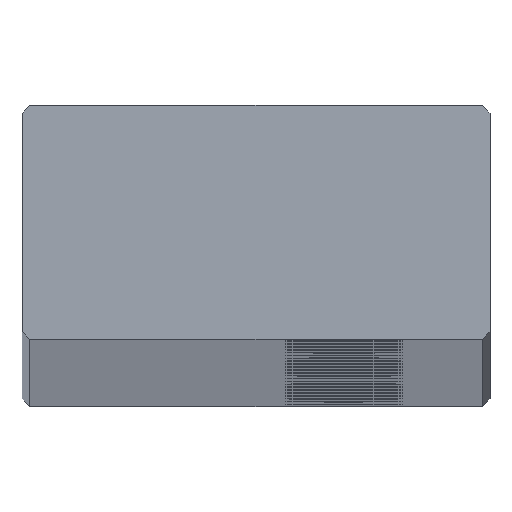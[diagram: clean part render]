
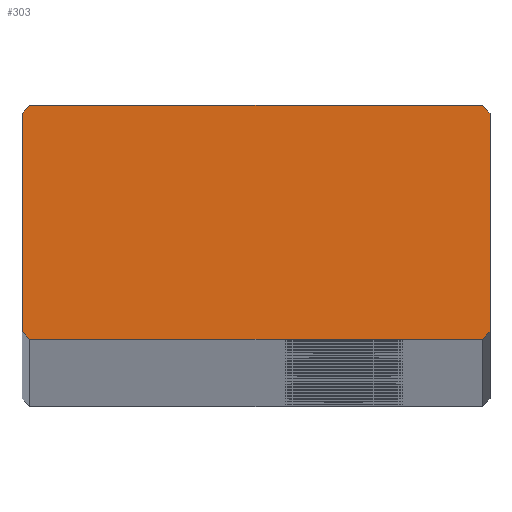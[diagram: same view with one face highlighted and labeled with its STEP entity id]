
A CAD part, top view. The second image highlights one B-rep face of the part: STEP entity #303.
In plain terms, the highlighted planar face has unit normal (0, 0, 1).
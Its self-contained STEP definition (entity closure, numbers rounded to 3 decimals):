
#303=ADVANCED_FACE('',(#894),#895,.T.);
#894=FACE_OUTER_BOUND('',#1486,.T.);
#895=PLANE('',#1487);
#1486=EDGE_LOOP('',(#3262,#3263,#3264,#3265,#3266,#3267,#3268,#3269));
#1487=AXIS2_PLACEMENT_3D('',#3270,#3271,#3272);
#3262=ORIENTED_EDGE('',*,*,#3812,.F.);
#3263=ORIENTED_EDGE('',*,*,#3834,.F.);
#3264=ORIENTED_EDGE('',*,*,#3831,.F.);
#3265=ORIENTED_EDGE('',*,*,#3828,.F.);
#3266=ORIENTED_EDGE('',*,*,#3825,.F.);
#3267=ORIENTED_EDGE('',*,*,#3822,.F.);
#3268=ORIENTED_EDGE('',*,*,#3819,.F.);
#3269=ORIENTED_EDGE('',*,*,#3816,.F.);
#3270=CARTESIAN_POINT('',(0.,6.0,1976.0));
#3271=DIRECTION('',(0.0,0.0,1.0));
#3272=DIRECTION('',(1.0,0.0,0.0));
#3812=EDGE_CURVE('',#4716,#4717,#4718,.T.);
#3816=EDGE_CURVE('',#4717,#4724,#4725,.T.);
#3819=EDGE_CURVE('',#4724,#4729,#4730,.T.);
#3822=EDGE_CURVE('',#4729,#4734,#4735,.T.);
#3825=EDGE_CURVE('',#4734,#4739,#4740,.T.);
#3828=EDGE_CURVE('',#4739,#4744,#4745,.T.);
#3831=EDGE_CURVE('',#4744,#4749,#4750,.T.);
#3834=EDGE_CURVE('',#4749,#4716,#4754,.T.);
#4716=VERTEX_POINT('',#5812);
#4717=VERTEX_POINT('',#5813);
#4718=LINE('',#5814,#5815);
#4724=VERTEX_POINT('',#5824);
#4725=LINE('',#5825,#5826);
#4729=VERTEX_POINT('',#5832);
#4730=LINE('',#5833,#5834);
#4734=VERTEX_POINT('',#5840);
#4735=LINE('',#5841,#5842);
#4739=VERTEX_POINT('',#5848);
#4740=LINE('',#5849,#5850);
#4744=VERTEX_POINT('',#5856);
#4745=LINE('',#5857,#5858);
#4749=VERTEX_POINT('',#5864);
#4750=LINE('',#5865,#5866);
#4754=LINE('',#5872,#5873);
#5812=CARTESIAN_POINT('',(-11.6,0.,1976.0));
#5813=CARTESIAN_POINT('',(-12.0,0.4,1976.0));
#5814=CARTESIAN_POINT('',(-11.6,0.,1976.0));
#5815=VECTOR('',#7108,1.0);
#5824=CARTESIAN_POINT('',(-12.0,11.6,1976.0));
#5825=CARTESIAN_POINT('',(-12.0,0.4,1976.0));
#5826=VECTOR('',#7112,1.0);
#5832=CARTESIAN_POINT('',(-11.6,12.0,1976.0));
#5833=CARTESIAN_POINT('',(-12.0,11.6,1976.0));
#5834=VECTOR('',#7115,1.0);
#5840=CARTESIAN_POINT('',(11.6,12.0,1976.0));
#5841=CARTESIAN_POINT('',(-11.6,12.0,1976.0));
#5842=VECTOR('',#7118,1.0);
#5848=CARTESIAN_POINT('',(12.0,11.6,1976.0));
#5849=CARTESIAN_POINT('',(11.6,12.0,1976.0));
#5850=VECTOR('',#7121,1.0);
#5856=CARTESIAN_POINT('',(12.0,0.4,1976.0));
#5857=CARTESIAN_POINT('',(12.0,0.4,1976.0));
#5858=VECTOR('',#7124,1.0);
#5864=CARTESIAN_POINT('',(11.6,0.,1976.0));
#5865=CARTESIAN_POINT('',(11.6,0.,1976.0));
#5866=VECTOR('',#7127,1.0);
#5872=CARTESIAN_POINT('',(-11.6,0.,1976.0));
#5873=VECTOR('',#7130,1.0);
#7108=DIRECTION('',(-0.707,0.707,0.0));
#7112=DIRECTION('',(0.0,1.0,0.0));
#7115=DIRECTION('',(0.707,0.707,0.0));
#7118=DIRECTION('',(1.0,0.0,0.0));
#7121=DIRECTION('',(0.707,-0.707,0.0));
#7124=DIRECTION('',(-0.0,-1.0,-0.0));
#7127=DIRECTION('',(-0.707,-0.707,-0.0));
#7130=DIRECTION('',(-1.0,-0.0,-0.0));
